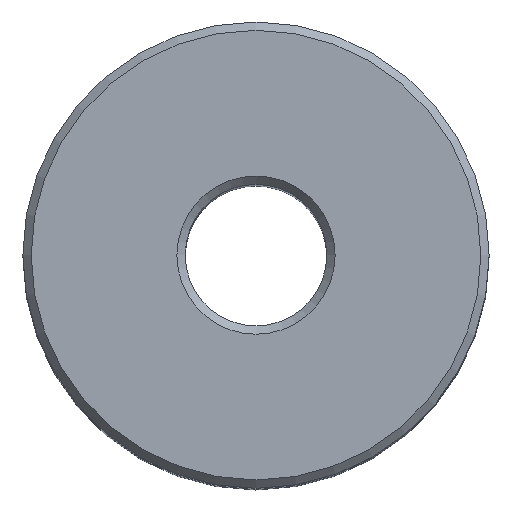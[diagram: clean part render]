
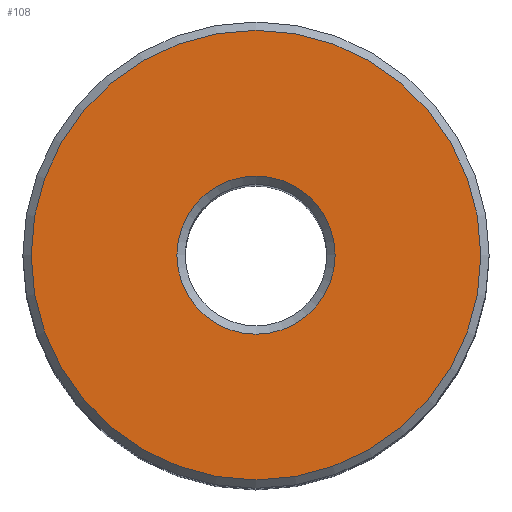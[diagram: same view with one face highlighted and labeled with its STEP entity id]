
A CAD part, top view. The second image highlights one B-rep face of the part: STEP entity #108.
In plain terms, the highlighted planar face has unit normal (0, 0, 1).
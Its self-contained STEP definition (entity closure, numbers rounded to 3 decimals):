
#100=PLANE('',#281);
#108=ADVANCED_FACE('',(#132,#133),#100,.T.);
#132=FACE_BOUND('',#164,.T.);
#133=FACE_BOUND('',#165,.T.);
#164=EDGE_LOOP('',(#196));
#165=EDGE_LOOP('',(#197));
#196=ORIENTED_EDGE('',*,*,#244,.T.);
#197=ORIENTED_EDGE('',*,*,#245,.T.);
#228=VERTEX_POINT('',#383);
#229=VERTEX_POINT('',#385);
#244=EDGE_CURVE('',#228,#228,#260,.T.);
#245=EDGE_CURVE('',#229,#229,#261,.T.);
#260=CIRCLE('',#279,4.75);
#261=CIRCLE('',#280,13.5);
#279=AXIS2_PLACEMENT_3D('',#382,#319,#320);
#280=AXIS2_PLACEMENT_3D('',#384,#321,#322);
#281=AXIS2_PLACEMENT_3D('',#386,#323,#324);
#319=DIRECTION('',(0.,0.,-1.));
#320=DIRECTION('',(1.,0.,0.));
#321=DIRECTION('',(0.,0.,1.));
#322=DIRECTION('',(1.,0.,0.));
#323=DIRECTION('',(0.,0.,1.));
#324=DIRECTION('',(1.,0.,0.));
#382=CARTESIAN_POINT('',(0.,0.,59.));
#383=CARTESIAN_POINT('',(4.75,0.,59.));
#384=CARTESIAN_POINT('',(0.,0.,59.));
#385=CARTESIAN_POINT('',(13.5,0.,59.));
#386=CARTESIAN_POINT('',(0.,0.,59.));
